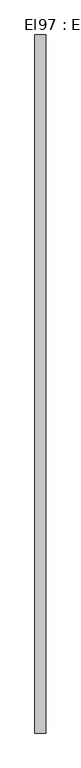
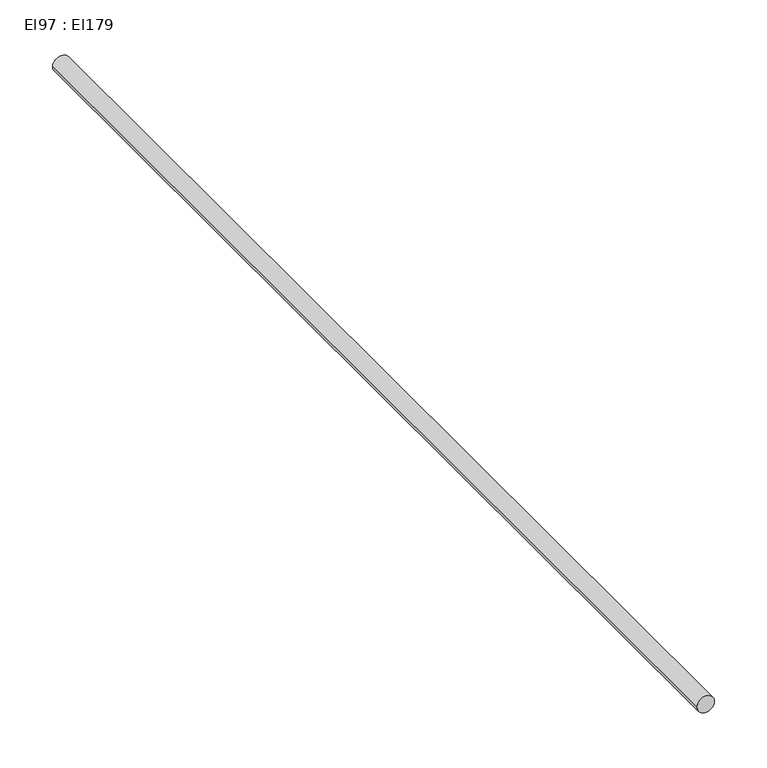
"""IFC4 building model written with IfcOpenShell, lengths in millimetres: cable carrier segment geometry, El97 : El179."""

import ifcopenshell
import ifcopenshell.guid

model = None  # the IFC model being written
_history = None  # IfcOwnerHistory: only IFC2X3 demands one
_inside = {}  # id of a spatial element -> (the spatial element, [elements in it])
_under = {}  # id of a project, library or spatial element -> (it, [spatial elements below it])
_declared = {}  # id of a project -> (the project, [libraries it declares])
_typed = {}  # id of a type object -> (the type object, [elements of that type])
_made_of = {}  # id of a material, layer set ... -> (it, [elements and type objects made of it])


def new_model(schema):
    """Start an empty IFC model of exactly this schema.

    Asked for "IFC4X3", IfcOpenShell would pick the latest addendum, in which some entities
    have other attributes; the version numbers below select the first issue.
    IFC2X3 requires an IfcOwnerHistory on every rooted entity: one is made here for all.
    """
    global model, _history
    if schema == "IFC4X3":
        model = ifcopenshell.file(schema_version=(4, 3, 0, 0))
    else:
        model = ifcopenshell.file(schema=schema)
    _inside.clear()
    _under.clear()
    _declared.clear()
    _typed.clear()
    _made_of.clear()
    _history = None
    if model.schema == "IFC2X3":
        org = make("IfcOrganization", Name="unknown")
        user = make(
            "IfcPersonAndOrganization",
            ThePerson=make("IfcPerson", FamilyName="unknown"),
            TheOrganization=org,
        )
        app = make(
            "IfcApplication",
            ApplicationDeveloper=org,
            Version="unknown",
            ApplicationFullName="unknown",
            ApplicationIdentifier="unknown",
        )
        _history = make(
            "IfcOwnerHistory",
            OwningUser=user,
            OwningApplication=app,
            ChangeAction="ADDED",
            CreationDate=0,
        )
    return model


def make(cls, **values):
    """One entity of the class cls with the attributes given. An attribute that is None is left unset."""
    return model.create_entity(
        cls, **{name: value for name, value in values.items() if value is not None}
    )


def rooted(cls, **values):
    """An entity with a GlobalId (a new one), such as an element, a storey or a relation."""
    return make(cls, GlobalId=ifcopenshell.guid.new(), OwnerHistory=_history, **values)


def si_unit(unit_type, name, prefix=None):
    """IfcSIUnit, for example si_unit("LENGTHUNIT", "METRE", prefix="MILLI")."""
    return make("IfcSIUnit", UnitType=unit_type, Prefix=prefix, Name=name)


def assignment(units):
    """IfcUnitAssignment: the units of a project."""
    return None if units is None else make("IfcUnitAssignment", Units=units)


def point(xyz):
    """IfcCartesianPoint."""
    return None if xyz is None else make("IfcCartesianPoint", Coordinates=xyz)


def direction(xyz):
    """IfcDirection."""
    return None if xyz is None else make("IfcDirection", DirectionRatios=xyz)


def frame(location, z_axis=None, x_axis=None):
    """IfcAxis2Placement3D, a coordinate frame: its origin and axes. An axis left out is left unset."""
    return make(
        "IfcAxis2Placement3D",
        Location=point(location),
        Axis=direction(z_axis),
        RefDirection=direction(x_axis),
    )


def frame_2d(location, x_axis=None):
    """IfcAxis2Placement2D, a coordinate frame in the plane: its origin and x axis."""
    return make(
        "IfcAxis2Placement2D", Location=point(location), RefDirection=direction(x_axis)
    )


def origin():
    """The frame at (0, 0, 0) with its axes left unset."""
    return frame((0.0, 0.0, 0.0))


def place(relative_to, where):
    """IfcLocalPlacement: puts the frame where relative to a parent placement (None: the world)."""
    return make(
        "IfcLocalPlacement", PlacementRelTo=relative_to, RelativePlacement=where
    )


def context(
    kind, dimensions, precision=None, world=None, true_north=None, identifier=None
):
    """IfcGeometricRepresentationContext, for example the 3D "Model" context."""
    return make(
        "IfcGeometricRepresentationContext",
        ContextIdentifier=identifier,
        ContextType=kind,
        CoordinateSpaceDimension=dimensions,
        Precision=precision,
        WorldCoordinateSystem=world,
        TrueNorth=true_north,
    )


def project(units=None, contexts=None):
    """IfcProject with its units and contexts."""
    return rooted(
        "IfcProject",
        Name="project",
        RepresentationContexts=contexts,
        UnitsInContext=assignment(units),
    )


def spatial(cls, under=None, at=None, **own):
    """A site, building, storey or space (cls), placed at a placement, below another one or the project."""
    s = rooted(cls, ObjectPlacement=at, **own)
    if under is not None:
        _under.setdefault(under.id(), (under, []))[1].append(s)
    return s


def circle_curve(where, radius):
    """IfcCircle in the frame where."""
    return make("IfcCircle", Position=where, Radius=radius)


def trimmed(basis, trim1, trim2, sense, master):
    """IfcTrimmedCurve: the piece of a basis curve between two trims."""
    return make(
        "IfcTrimmedCurve",
        BasisCurve=basis,
        Trim1=trim1,
        Trim2=trim2,
        SenseAgreement=sense,
        MasterRepresentation=master,
    )


def segment(curve, same_sense, transition):
    """IfcCompositeCurveSegment."""
    return make(
        "IfcCompositeCurveSegment",
        Transition=transition,
        SameSense=same_sense,
        ParentCurve=curve,
    )


def composite_curve(segments, self_intersect=None):
    """IfcCompositeCurve: segments joined end to end."""
    return make("IfcCompositeCurve", Segments=segments, SelfIntersect=self_intersect)


def outline(outer, holes=None, kind="AREA"):
    """IfcArbitraryClosedProfileDef: a profile drawn as a closed curve; with holes, ...WithVoids."""
    if holes is None:
        return make("IfcArbitraryClosedProfileDef", ProfileType=kind, OuterCurve=outer)
    return make(
        "IfcArbitraryProfileDefWithVoids",
        ProfileType=kind,
        OuterCurve=outer,
        InnerCurves=holes,
    )


def extrude(swept, where, along, depth):
    """IfcExtrudedAreaSolid: the profile swept, set in the frame where, extruded along a direction by depth."""
    return make(
        "IfcExtrudedAreaSolid",
        SweptArea=swept,
        Position=where,
        ExtrudedDirection=direction(along),
        Depth=depth,
    )


def shape(context_of_items, identifier, shape_type, items):
    """IfcShapeRepresentation: the items that make up one representation, for example the "Body"."""
    return make(
        "IfcShapeRepresentation",
        ContextOfItems=context_of_items,
        RepresentationIdentifier=identifier,
        RepresentationType=shape_type,
        Items=items,
    )


def source(mapping_origin, context_of_items, identifier, shape_type, items):
    """IfcRepresentationMap: a shape defined once, which mapped items show again and again."""
    return make(
        "IfcRepresentationMap",
        MappingOrigin=mapping_origin,
        MappedRepresentation=shape(context_of_items, identifier, shape_type, items),
    )


def transform(
    local_origin,
    x_axis=None,
    y_axis=None,
    z_axis=None,
    scale=None,
    scale2=None,
    scale3=None,
    uniform=True,
):
    """IfcCartesianTransformationOperator3D, or its non-uniform kind. x_axis, y_axis, z_axis: its Axis1, 2, 3."""
    if uniform:
        return make(
            "IfcCartesianTransformationOperator3D",
            Axis1=direction(x_axis),
            Axis2=direction(y_axis),
            LocalOrigin=point(local_origin),
            Scale=scale,
            Axis3=direction(z_axis),
        )
    return make(
        "IfcCartesianTransformationOperator3DnonUniform",
        Axis1=direction(x_axis),
        Axis2=direction(y_axis),
        LocalOrigin=point(local_origin),
        Scale=scale,
        Axis3=direction(z_axis),
        Scale2=scale2,
        Scale3=scale3,
    )


def mapped(mapping_source, mapping_target):
    """IfcMappedItem: shows the shape of a source again, moved by a transform."""
    return make(
        "IfcMappedItem", MappingSource=mapping_source, MappingTarget=mapping_target
    )


def made_of(thing, what):
    """Note that an element or type object is made of a material, layer set ...; save() writes the relation."""
    if what is not None:
        _made_of.setdefault(what.id(), (what, []))[1].append(thing)
    return thing


def element(
    cls,
    number,
    at=None,
    inside=None,
    cuts=None,
    type_object=None,
    material=None,
    context=None,
    identifier="Body",
    shape_type=None,
    held_by="IfcProductDefinitionShape",
    body=None,
    shapes=None,
    **own,
):
    """One element of the class cls, such as IfcWall. Its Tag is "e" and its number.

    at: its placement. inside: the storey or other place that contains it. cuts: it is an
    opening in that element (IfcRelVoidsElement). A single representation is given by context,
    identifier, shape_type and body (its items); several are given by shapes. held_by: the class
    of the entity that holds the representations. save() writes the other relations.
    """
    e = rooted(cls, Tag="e%d" % number, ObjectPlacement=at, **own)
    if body is not None:
        shapes = [shape(context, identifier, shape_type, body)]
    if shapes is not None:
        e.Representation = make(held_by, Representations=shapes)
    if inside is not None:
        _inside.setdefault(inside.id(), (inside, []))[1].append(e)
    if cuts is not None:
        rooted(
            "IfcRelVoidsElement", RelatingBuildingElement=cuts, RelatedOpeningElement=e
        )
    if type_object is not None:
        _typed.setdefault(type_object.id(), (type_object, []))[1].append(e)
    return made_of(e, material)


def aggregate(whole, parts):
    """IfcRelAggregates: a whole, such as a stair, and the parts it consists of."""
    return rooted("IfcRelAggregates", RelatingObject=whole, RelatedObjects=parts)


def save(model, path):
    """Write the relations noted so far, then the file.

    IfcRelAggregates (storeys below a building ...), IfcRelContainedInSpatialStructure (elements
    in a storey), IfcRelDefinesByType, IfcRelAssociatesMaterial and IfcRelDeclares: one each for
    every whole, place, type object, material and project.
    """
    for whole, parts in _under.values():
        aggregate(whole, parts)
    for where, things in _inside.values():
        rooted(
            "IfcRelContainedInSpatialStructure",
            RelatedElements=things,
            RelatingStructure=where,
        )
    for kind, things in _typed.values():
        rooted("IfcRelDefinesByType", RelatedObjects=things, RelatingType=kind)
    for what, things in _made_of.values():
        rooted("IfcRelAssociatesMaterial", RelatedObjects=things, RelatingMaterial=what)
    for by, libraries in _declared.values():
        rooted("IfcRelDeclares", RelatingContext=by, RelatedDefinitions=libraries)
    model.write(path)


def el97_el179_1835d93a(model_context):
    return source(origin(), model_context, "Body", "SweptSolid", [
        extrude(outline(composite_curve([segment(trimmed(circle_curve(frame_2d((1800.0, 5364.4746511)), 9.5), [point((1800.0, 5354.9746511))], [point((1800.0, 5373.9746511))], False, "CARTESIAN"), True, "CONTINUOUS"), segment(trimmed(circle_curve(frame_2d((1800.0, 5364.4746511)), 9.5), [point((1800.0, 5373.9746511))], [point((1800.0, 5354.9746511))], False, "CARTESIAN"), True, "CONTINUOUS")], self_intersect=False)), frame((0.0, 23447.5731745, 0.0), z_axis=(0.0, 1.0, 0.0), x_axis=(0.0, 0.0, 1.0)), (0.0, 0.0, 1.0), 1224.28),
    ])


if __name__ == "__main__":
    model = new_model("IFC4")
    model_context = context("Model", 3, world=origin())
    ifc_project = project(units=[si_unit("LENGTHUNIT", "METRE", prefix="MILLI")], contexts=[model_context])
    site = spatial("IfcSite", under=ifc_project)
    building = spatial("IfcBuilding", under=site)
    placement = place(None, origin())
    el97_el179_shape = el97_el179_1835d93a(model_context)
    element("IfcCableCarrierSegment", 1, ObjectType="El97 : El179", at=placement, inside=building, context=model_context, shape_type="MappedRepresentation", body=[
        mapped(el97_el179_shape, transform((0.0, 0.0, 0.0), x_axis=(1.0, 0.0, 0.0), y_axis=(0.0, 1.0, 0.0), z_axis=(0.0, 0.0, 1.0))),
    ])
    save(model, "model.ifc")
